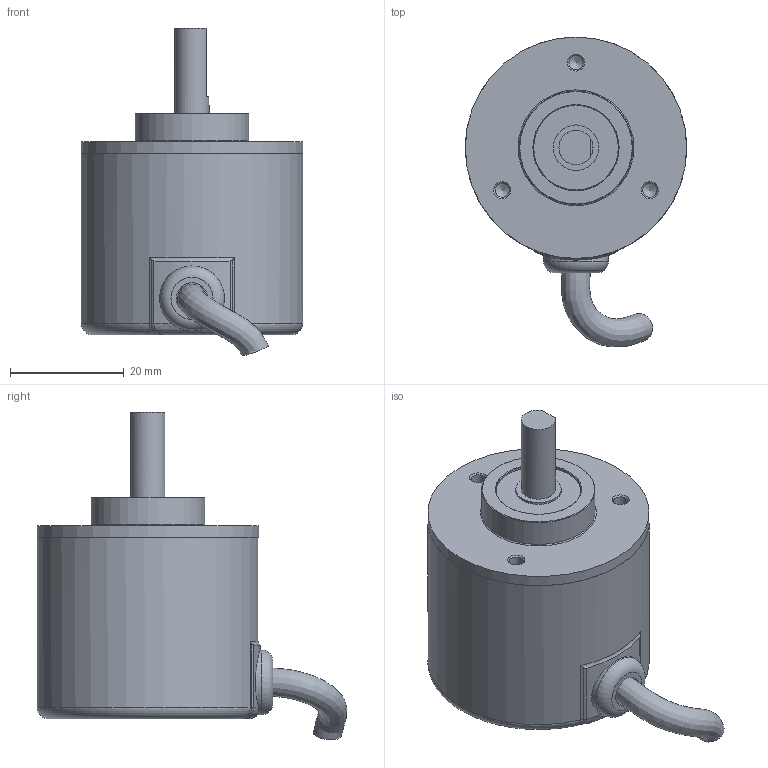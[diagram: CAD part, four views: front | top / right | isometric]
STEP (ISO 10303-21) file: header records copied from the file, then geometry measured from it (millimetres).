
FILE_DESCRIPTION(/* description */ (''),/* implementation_level */ '2;1');
FILE_NAME(/* name */ '编码器3D模型.stp',/* time_stamp */ '2018-12-23T15:20:24+08:00',/* author */ (''),/* organization */ (''),/* preprocessor_version */ 'ST-DEVELOPER v16',/* originating_system */ 'SIEMENS PLM Software NX 10.0',/* authorisation */ '');
FILE_SCHEMA (('AUTOMOTIVE_DESIGN { 1 0 10303 214 3 1 1 1 }'));
Length unit declared in the file: millimetre
Products named in the file (1): XL06DC23D06csi
Bounding box: 39 x 54.54 x 57.68 mm (x, y, z)
Volume: 19882.4 mm3; surface area: 15413.7 mm2
Topology: 5 solids, 5 shells, 69 faces, 142 edges, 88 vertices
Faces by surface type: cylinder 22, plane 22, bspline 11, cone 8, torus 6
Full cylindrical faces by diameter (mm): 2.5 x3, 5.5 x1, 6 x1, 8 x1, 11.405 x1, 14.9 x1, 15 x1, 20 x1, 37 x2, 39 x2
Entity records: 2700 total; most frequent: CARTESIAN_POINT 962, DIRECTION 248, ORIENTED_EDGE 206, AXIS2_PLACEMENT_3D 113, EDGE_CURVE 103, EDGE_LOOP 100, VERTEX_POINT 78, PRESENTATION_STYLE_ASSIGNMENT 70
